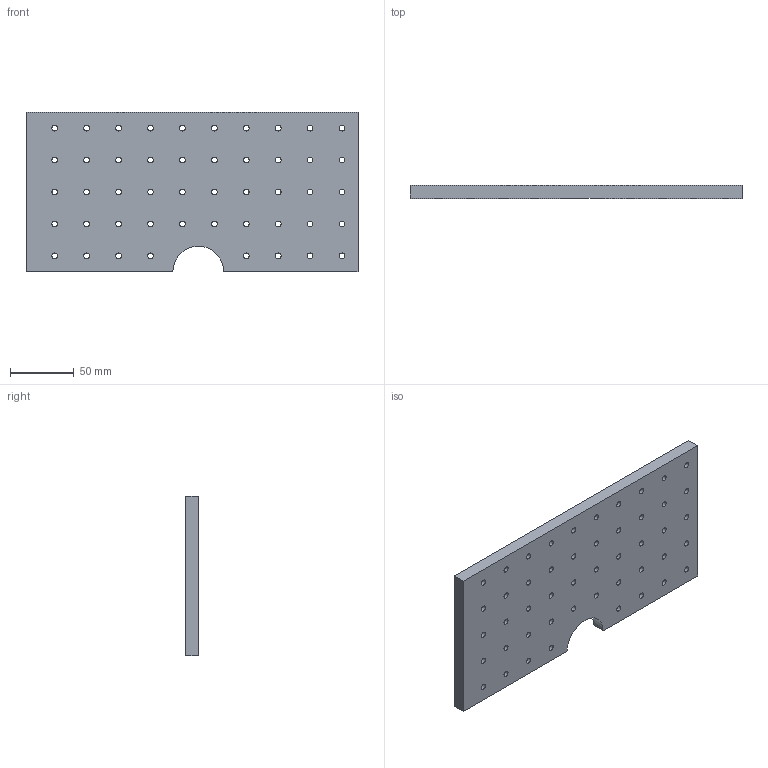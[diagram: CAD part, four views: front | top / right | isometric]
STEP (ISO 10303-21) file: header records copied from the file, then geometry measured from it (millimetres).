
FILE_DESCRIPTION(/* description */ (''),/* implementation_level */ '2;1');
FILE_NAME(/* name */ 'a-10x10.stp',/* time_stamp */ '2026-04-10T09:55:14+08:00',/* author */ ('32769'),/* organization */ (''),/* preprocessor_version */ 'ST-DEVELOPER v20',/* originating_system */ 'Autodesk Inventor 2025',/* authorisation */ '');
FILE_SCHEMA (('AUTOMOTIVE_DESIGN { 1 0 10303 214 3 1 1 }'));
Length unit declared in the file: millimetre
Products named in the file (1): a-10x10
Bounding box: 260 x 10 x 125 mm (x, y, z)
Volume: 311082.7 mm3; surface area: 76930.7 mm2
Topology: 1 solids, 1 shells, 56 faces, 162 edges, 108 vertices
Faces by surface type: cylinder 49, plane 7
Full cylindrical faces by diameter (mm): 4.5 x48
Entity records: 2139 total; most frequent: DIRECTION 374, CARTESIAN_POINT 327, ORIENTED_EDGE 324, EDGE_CURVE 162, AXIS2_PLACEMENT_3D 155, EDGE_LOOP 152, VERTEX_POINT 108, CIRCLE 98
